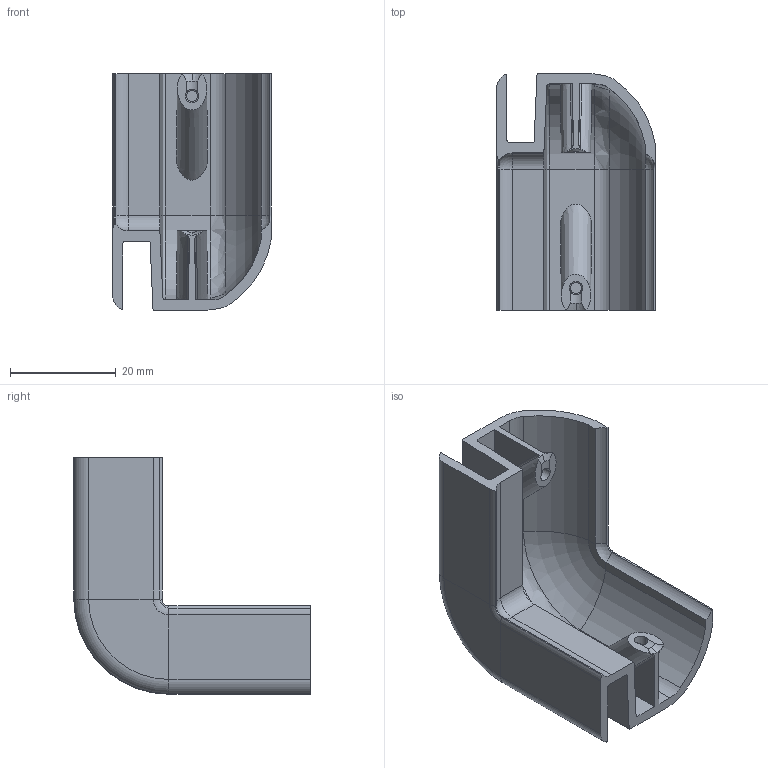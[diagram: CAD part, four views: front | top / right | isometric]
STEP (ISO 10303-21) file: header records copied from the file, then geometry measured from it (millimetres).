
FILE_DESCRIPTION (( 'STEP AP203' ), '1' );
FILE_NAME ('013.030.116.STEP', '2021-05-13T06:23:08', ( '' ), ( '' ), 'SwSTEP 2.0', 'SolidWorks 2018', '' );
FILE_SCHEMA (( 'CONFIG_CONTROL_DESIGN' ));
Length unit declared in the file: millimetre
Products named in the file (1): 013.030.116
Bounding box: 30 x 44.7 x 44.7 mm (x, y, z)
Volume: 9795.1 mm3; surface area: 10448.4 mm2
Topology: 1 solids, 1 shells, 104 faces, 255 edges, 152 vertices
Faces by surface type: plane 38, cylinder 34, torus 12, bspline 10, cone 8, sphere 2
Entity records: 3281 total; most frequent: CARTESIAN_POINT 819, ORIENTED_EDGE 508, DIRECTION 500, EDGE_CURVE 254, AXIS2_PLACEMENT_3D 189, VERTEX_POINT 152, LINE 122, VECTOR 122
